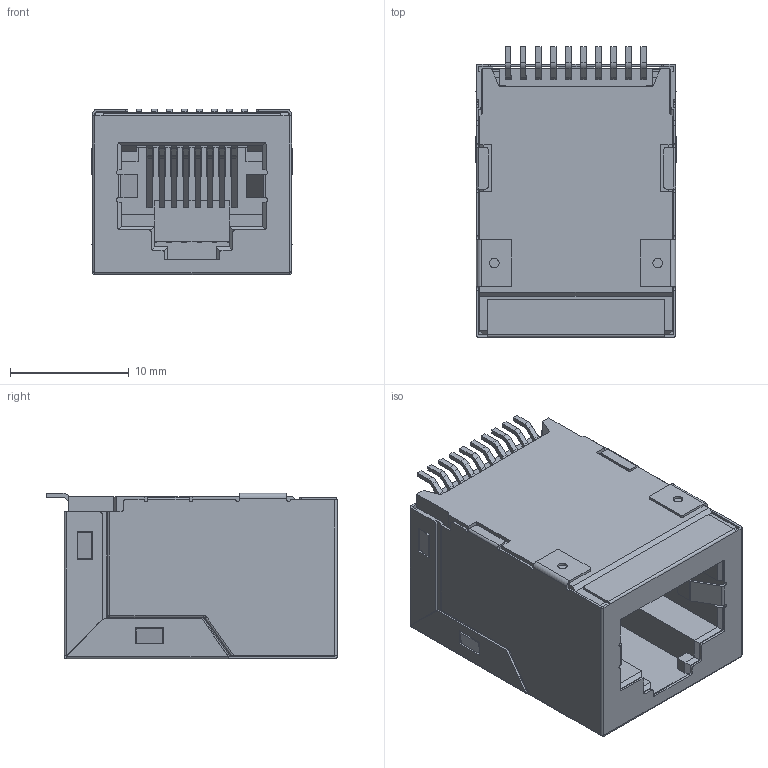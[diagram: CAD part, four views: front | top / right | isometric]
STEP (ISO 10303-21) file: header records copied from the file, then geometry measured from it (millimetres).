
FILE_DESCRIPTION((''),'2;1');
FILE_NAME('DGKYD911B015GWA7SP057','2024-02-26T09:10:01',('Administrator'),(''),'CREO PARAMETRIC BY PTC INC, 2019010','CREO PARAMETRIC BY PTC INC, 2019010','');
FILE_SCHEMA(('CONFIG_CONTROL_DESIGN'));
Length unit declared in the file: millimetre
Products named in the file (1): DGKYD911B015GWA7SP057
Bounding box: 16.89 x 24.52 x 13.95 mm (x, y, z)
Volume: 3426.7 mm3; surface area: 6908.7 mm2
Topology: 1 solids, 1 shells, 1082 faces, 3022 edges, 1970 vertices
Faces by surface type: plane 827, cylinder 239, bspline 10, torus 4, sphere 2
Entity records: 34676 total; most frequent: CARTESIAN_POINT 6363, ORIENTED_EDGE 6040, DIRECTION 5630, EDGE_CURVE 3020, VECTOR 2524, LINE 2524, VERTEX_POINT 1970, AXIS2_PLACEMENT_3D 1553
